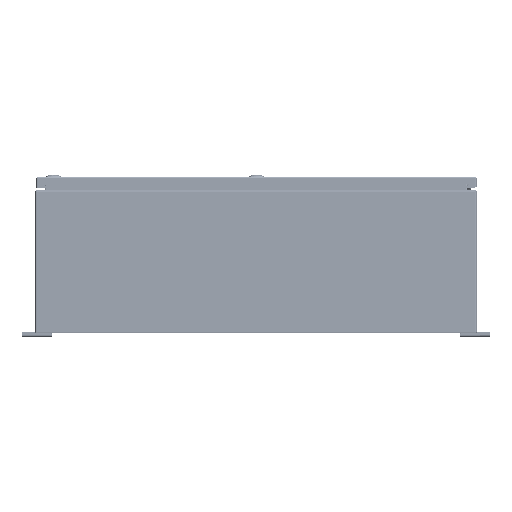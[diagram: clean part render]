
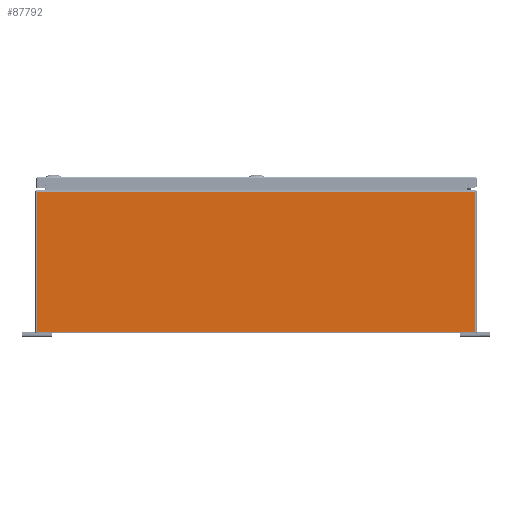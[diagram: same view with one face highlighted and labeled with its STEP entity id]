
A CAD part, left-side view. The second image highlights one B-rep face of the part: STEP entity #87792.
In plain terms, the highlighted planar face has unit normal (-1, 0, 0).
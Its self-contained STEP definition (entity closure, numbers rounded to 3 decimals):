
#5484=PLANE('',#94078);
#7636=LINE('',#123054,#14345);
#7637=LINE('',#123058,#14346);
#7638=LINE('',#123060,#14347);
#7639=LINE('',#123062,#14348);
#7640=LINE('',#123064,#14349);
#7641=LINE('',#123065,#14350);
#14345=VECTOR('',#101582,0.394);
#14346=VECTOR('',#101587,0.394);
#14347=VECTOR('',#101588,0.394);
#14348=VECTOR('',#101589,0.394);
#14349=VECTOR('',#101590,0.394);
#14350=VECTOR('',#101591,0.394);
#22415=FACE_OUTER_BOUND('',#27656,.T.);
#27656=EDGE_LOOP('',(#59153,#59154,#59155,#59156,#59157,#59158));
#36449=VERTEX_POINT('',#123038);
#36455=VERTEX_POINT('',#123053);
#36456=VERTEX_POINT('',#123057);
#36457=VERTEX_POINT('',#123059);
#36458=VERTEX_POINT('',#123061);
#36459=VERTEX_POINT('',#123063);
#45311=EDGE_CURVE('',#36449,#36455,#7636,.T.);
#45313=EDGE_CURVE('',#36456,#36449,#7637,.T.);
#45314=EDGE_CURVE('',#36456,#36457,#7638,.T.);
#45315=EDGE_CURVE('',#36458,#36457,#7639,.T.);
#45316=EDGE_CURVE('',#36459,#36458,#7640,.T.);
#45317=EDGE_CURVE('',#36459,#36455,#7641,.T.);
#59153=ORIENTED_EDGE('',*,*,#45313,.F.);
#59154=ORIENTED_EDGE('',*,*,#45314,.T.);
#59155=ORIENTED_EDGE('',*,*,#45315,.F.);
#59156=ORIENTED_EDGE('',*,*,#45316,.F.);
#59157=ORIENTED_EDGE('',*,*,#45317,.T.);
#59158=ORIENTED_EDGE('',*,*,#45311,.F.);
#87792=ADVANCED_FACE('',(#22415),#5484,.F.);
#94078=AXIS2_PLACEMENT_3D('',#123056,#101585,#101586);
#101582=DIRECTION('',(0.,0.,-1.));
#101585=DIRECTION('center_axis',(1.,0.,0.));
#101586=DIRECTION('ref_axis',(0.,0.,-1.));
#101587=DIRECTION('',(0.,-1.,0.));
#101588=DIRECTION('',(0.,1.,0.));
#101589=DIRECTION('',(0.,-1.,0.));
#101590=DIRECTION('',(0.,0.,1.));
#101591=DIRECTION('',(0.,-1.,0.));
#123038=CARTESIAN_POINT('',(-36.,-18.401,11.901));
#123053=CARTESIAN_POINT('',(-36.,-18.401,0.099));
#123054=CARTESIAN_POINT('',(-36.,-18.401,6.));
#123056=CARTESIAN_POINT('Origin',(-36.,0.,6.));
#123057=CARTESIAN_POINT('',(-36.,-17.626,11.901));
#123058=CARTESIAN_POINT('',(-36.,-9.225,11.901));
#123059=CARTESIAN_POINT('',(-36.,17.626,11.901));
#123060=CARTESIAN_POINT('',(-36.,9.205,11.901));
#123061=CARTESIAN_POINT('',(-36.,18.401,11.901));
#123062=CARTESIAN_POINT('',(-36.,-9.225,11.901));
#123063=CARTESIAN_POINT('',(-36.,18.401,0.099));
#123064=CARTESIAN_POINT('',(-36.,18.401,6.));
#123065=CARTESIAN_POINT('',(-36.,9.25,0.099));
